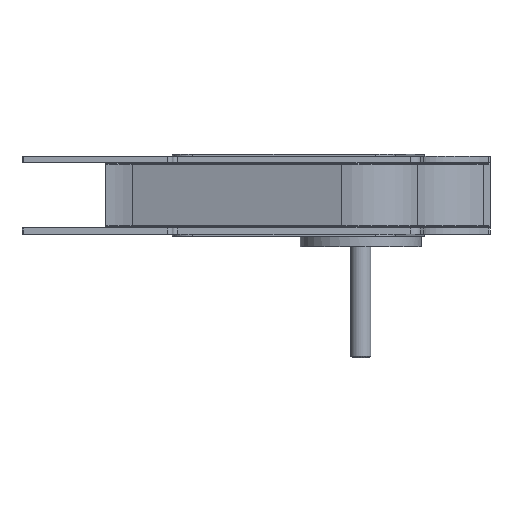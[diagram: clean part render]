
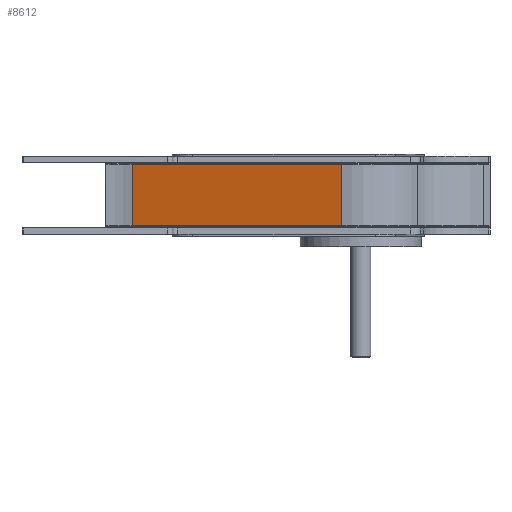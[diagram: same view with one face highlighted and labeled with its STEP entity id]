
A CAD part, front view. The second image highlights one B-rep face of the part: STEP entity #8612.
In plain terms, the highlighted planar face has unit normal (-0.291, -0.957, 0).
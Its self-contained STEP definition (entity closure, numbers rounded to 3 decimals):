
#68 = CARTESIAN_POINT ( 'NONE',  ( -353.933, -40.08, 30.293 ) ) ;
#177 = LINE ( 'NONE', #3239, #6645 ) ;
#736 = ORIENTED_EDGE ( 'NONE', *, *, #16999, .T. ) ;
#1188 = EDGE_CURVE ( 'NONE', #1488, #9440, #9366, .T. ) ;
#1488 = VERTEX_POINT ( 'NONE', #2469 ) ;
#1883 = LINE ( 'NONE', #68, #2087 ) ;
#2087 = VECTOR ( 'NONE', #9732, 1000. ) ;
#2469 = CARTESIAN_POINT ( 'NONE',  ( -146.644, -103.189, 30.293 ) ) ;
#2560 = CARTESIAN_POINT ( 'NONE',  ( -146.644, -103.189, -30.293 ) ) ;
#3239 = CARTESIAN_POINT ( 'NONE',  ( -146.644, -103.189, 30.293 ) ) ;
#3293 = CARTESIAN_POINT ( 'NONE',  ( -353.933, -40.08, 30.293 ) ) ;
#5124 = PLANE ( 'NONE',  #8699 ) ;
#5570 = CARTESIAN_POINT ( 'NONE',  ( -146.644, -103.189, -30.293 ) ) ;
#6032 = DIRECTION ( 'NONE',  ( -0.957, 0.291, 0. ) ) ;
#6645 = VECTOR ( 'NONE', #14407, 1000. ) ;
#7857 = CARTESIAN_POINT ( 'NONE',  ( -146.644, -103.189, 30.293 ) ) ;
#8106 = ORIENTED_EDGE ( 'NONE', *, *, #14042, .F. ) ;
#8108 = EDGE_CURVE ( 'NONE', #1488, #10702, #177, .T. ) ;
#8429 = DIRECTION ( 'NONE',  ( -0.957, 0.291, 0. ) ) ;
#8612 = ADVANCED_FACE ( 'NONE', ( #15722 ), #5124, .F. ) ;
#8670 = CARTESIAN_POINT ( 'NONE',  ( -146.644, -103.189, 30.293 ) ) ;
#8699 = AXIS2_PLACEMENT_3D ( 'NONE', #7857, #17438, #11938 ) ;
#9366 = LINE ( 'NONE', #8670, #17357 ) ;
#9440 = VERTEX_POINT ( 'NONE', #3293 ) ;
#9732 = DIRECTION ( 'NONE',  ( 0., 0., -1. ) ) ;
#10702 = VERTEX_POINT ( 'NONE', #2560 ) ;
#11307 = EDGE_LOOP ( 'NONE', ( #15886, #16916, #736, #8106 ) ) ;
#11698 = LINE ( 'NONE', #5570, #14713 ) ;
#11938 = DIRECTION ( 'NONE',  ( -0.957, 0.291, 0. ) ) ;
#12769 = VERTEX_POINT ( 'NONE', #17126 ) ;
#14042 = EDGE_CURVE ( 'NONE', #10702, #12769, #11698, .T. ) ;
#14407 = DIRECTION ( 'NONE',  ( 0., 0., -1. ) ) ;
#14713 = VECTOR ( 'NONE', #8429, 1000. ) ;
#15722 = FACE_OUTER_BOUND ( 'NONE', #11307, .T. ) ;
#15886 = ORIENTED_EDGE ( 'NONE', *, *, #8108, .F. ) ;
#16916 = ORIENTED_EDGE ( 'NONE', *, *, #1188, .T. ) ;
#16999 = EDGE_CURVE ( 'NONE', #9440, #12769, #1883, .T. ) ;
#17126 = CARTESIAN_POINT ( 'NONE',  ( -353.933, -40.08, -30.293 ) ) ;
#17357 = VECTOR ( 'NONE', #6032, 1000. ) ;
#17438 = DIRECTION ( 'NONE',  ( 0.291, 0.957, 0. ) ) ;
